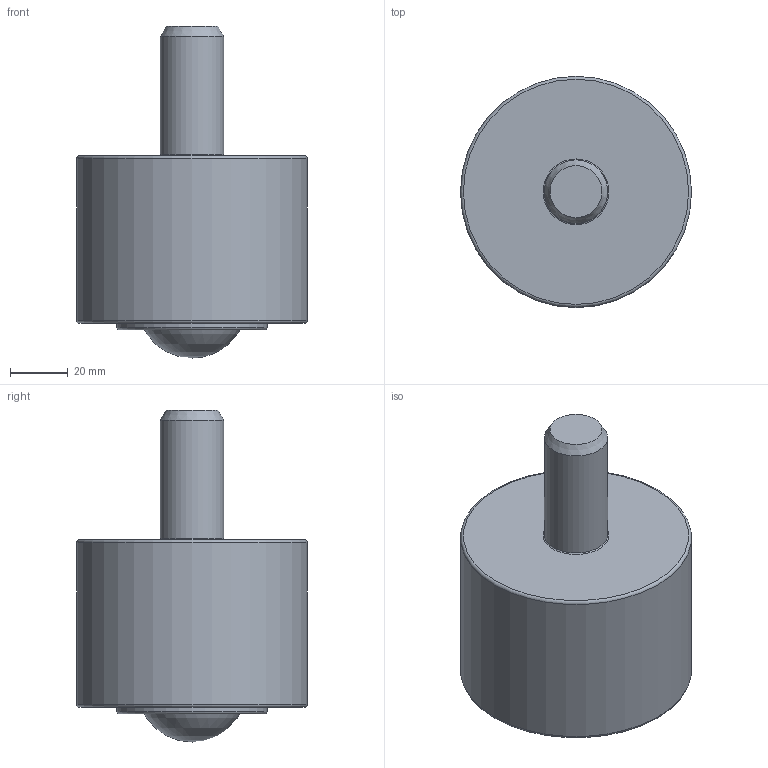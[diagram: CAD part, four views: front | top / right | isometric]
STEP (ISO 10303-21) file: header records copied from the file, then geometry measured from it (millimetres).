
FILE_DESCRIPTION(/* description */ (''),/* implementation_level */ '2;1');
FILE_NAME(/* name */ 'Z:\80-CAD共有ファイル\製品3D\X2\30C730FC30BF\X0\\12-IK-N\IK-38N.stp',/* time_stamp */ '2015-01-07T09:37:18+09:00',/* author */ ('yamaki'),/* organization */ (''),/* preprocessor_version */ 'ST-DEVELOPER v15.6',/* originating_system */ 'Autodesk Inventor 2015',/* authorisation */ '');
FILE_SCHEMA (('AUTOMOTIVE_DESIGN { 1 0 10303 214 3 1 1 }'));
Length unit declared in the file: millimetre
Products named in the file (1): 1238AA
Bounding box: 80 x 80 x 115 mm (x, y, z)
Volume: 308583.6 mm3; surface area: 31997.6 mm2
Topology: 1 solids, 1 shells, 38 faces, 79 edges, 50 vertices
Faces by surface type: plane 15, cylinder 13, torus 7, cone 2, sphere 1
Full cylindrical faces by diameter (mm): 2.5 x2, 22 x1, 34.449 x1, 52 x1, 72 x1, 80 x1
Entity records: 981 total; most frequent: DIRECTION 174, CARTESIAN_POINT 147, ORIENTED_EDGE 120, AXIS2_PLACEMENT_3D 75, EDGE_LOOP 62, EDGE_CURVE 60, VERTEX_POINT 48, STYLED_ITEM 39
